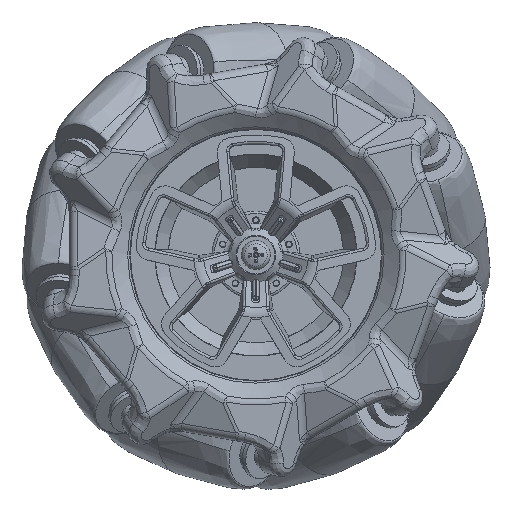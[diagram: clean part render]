
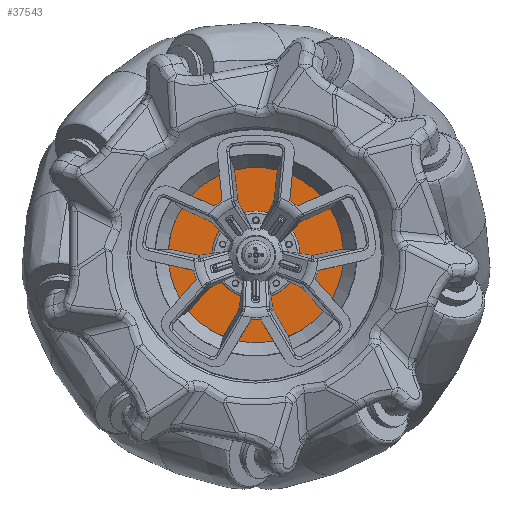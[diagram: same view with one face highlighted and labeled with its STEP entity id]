
A CAD part, top view. The second image highlights one B-rep face of the part: STEP entity #37543.
In plain terms, the highlighted planar face has unit normal (0, 0, 1) as drawn and (0, 1, 0) by its records, which use the part's own axes.
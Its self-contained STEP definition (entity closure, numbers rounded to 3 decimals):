
#193=FACE_BOUND('',#5709,.T.);
#494=PLANE('',#40800);
#3261=FACE_OUTER_BOUND('',#5708,.T.);
#5708=EDGE_LOOP('',(#28248));
#5709=EDGE_LOOP('',(#28249));
#7471=CIRCLE('',#39390,3.95);
#7597=CIRCLE('',#39605,21.9);
#14930=VERTEX_POINT('',#54009);
#15181=VERTEX_POINT('',#56470);
#18475=EDGE_CURVE('',#14930,#14930,#7471,.T.);
#18752=EDGE_CURVE('',#15181,#15181,#7597,.T.);
#28248=ORIENTED_EDGE('',*,*,#18752,.F.);
#28249=ORIENTED_EDGE('',*,*,#18475,.F.);
#37543=ADVANCED_FACE('',(#3261,#193),#494,.T.);
#39390=AXIS2_PLACEMENT_3D('',#54011,#43721,#43722);
#39605=AXIS2_PLACEMENT_3D('',#56471,#44172,#44173);
#40800=AXIS2_PLACEMENT_3D('',#86216,#47014,#47015);
#43721=DIRECTION('center_axis',(0.,1.,0.));
#43722=DIRECTION('ref_axis',(0.,0.,1.));
#44172=DIRECTION('center_axis',(0.,-1.,0.));
#44173=DIRECTION('ref_axis',(0.,0.,-1.));
#47014=DIRECTION('center_axis',(0.,1.,0.));
#47015=DIRECTION('ref_axis',(0.,0.,1.));
#54009=CARTESIAN_POINT('',(0.,12.4,-3.95));
#54011=CARTESIAN_POINT('Origin',(0.,12.4,0.));
#56470=CARTESIAN_POINT('',(0.,12.4,-21.9));
#56471=CARTESIAN_POINT('Origin',(0.,12.4,0.));
#86216=CARTESIAN_POINT('Origin',(0.,12.4,0.));
